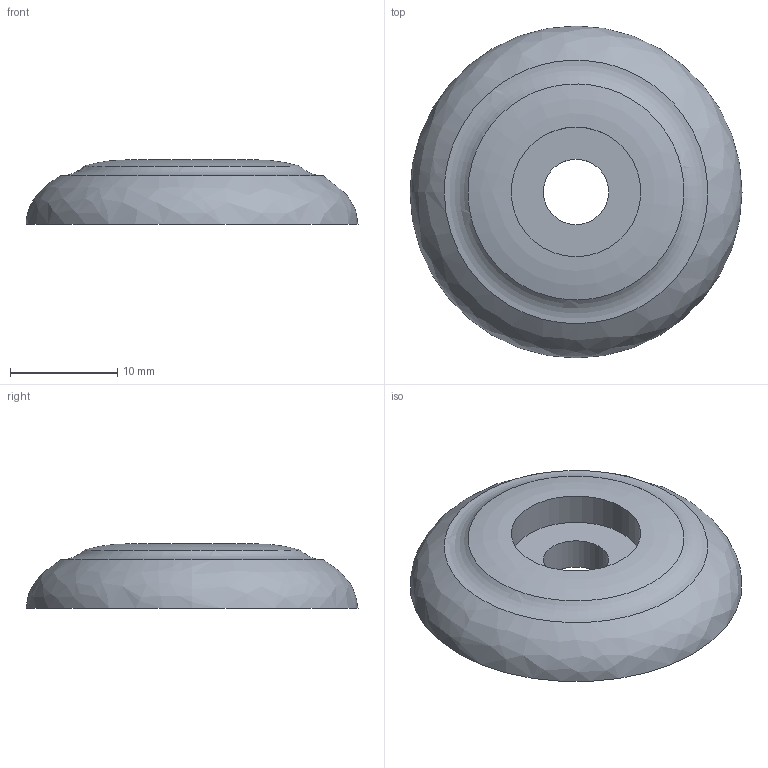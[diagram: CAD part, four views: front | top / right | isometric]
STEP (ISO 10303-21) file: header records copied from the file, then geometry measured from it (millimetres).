
FILE_DESCRIPTION(/* description */ (''),/* implementation_level */ '2;1');
FILE_NAME(/* name */ 'bar-end-ring.step',/* time_stamp */ '2026-03-22T08:49:33+01:00',/* author */ (''),/* organization */ (''),/* preprocessor_version */ 'ST-DEVELOPER v20.1',/* originating_system */ 'Autodesk Translation Framework v14.24.0.0',/* authorisation */ '');
FILE_SCHEMA (('AUTOMOTIVE_DESIGN { 1 0 10303 214 3 1 1 }'));
Length unit declared in the file: millimetre
Products named in the file (1): 2025-09-22-15-26-51-302
Bounding box: 31 x 31 x 6 mm (x, y, z)
Volume: 3035.6 mm3; surface area: 1883.9 mm2
Topology: 1 solids, 1 shells, 7 faces, 12 edges, 7 vertices
Faces by surface type: bspline 2, cylinder 2, plane 2, torus 1
Full cylindrical faces by diameter (mm): 6.1 x1, 12.1 x1
Entity records: 456 total; most frequent: CARTESIAN_POINT 285, DIRECTION 26, ORIENTED_EDGE 24, EDGE_CURVE 12, AXIS2_PLACEMENT_3D 12, EDGE_LOOP 9, FACE_OUTER_BOUND 7, VERTEX_POINT 7
